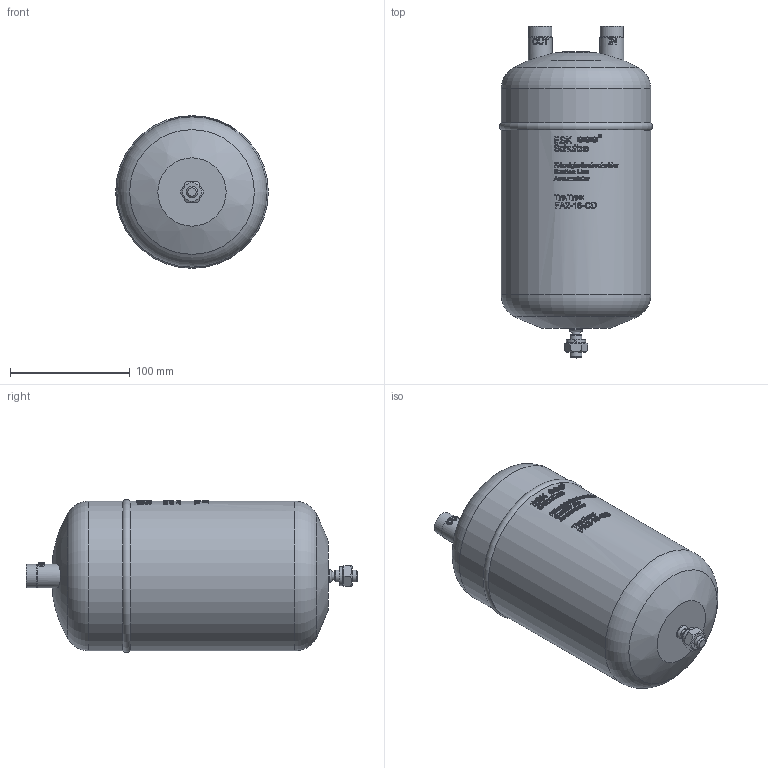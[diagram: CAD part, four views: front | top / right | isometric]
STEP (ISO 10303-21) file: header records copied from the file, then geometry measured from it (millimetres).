
FILE_DESCRIPTION(/* description */ (''),/* implementation_level */ '2;1');
FILE_NAME(/* name */ 'P:\FA\FA2-16-CD\FA2-16-CD.stp',/* time_stamp */ '2017-10-04T15:51:27+02:00',/* author */ ('neufeld'),/* organization */ (''),/* preprocessor_version */ 'ST-DEVELOPER v16.1',/* originating_system */ 'Autodesk Inventor 2016',/* authorisation */ '');
FILE_SCHEMA (('AUTOMOTIVE_DESIGN { 1 0 10303 214 3 1 1 }'));
Length unit declared in the file: millimetre
Products named in the file (2): FA2-16-CD; FA2-16-CD_1
Assembly tree (1 placements, depth 2):
  FA2-16-CD_1
    FA2-16-CD
Bounding box: 127.56 x 277.41 x 127.56 mm (x, y, z)
Volume: 2641315 mm3; surface area: 109598.8 mm2
Topology: 1 solids, 1 shells, 1348 faces, 3661 edges, 2438 vertices
Faces by surface type: plane 722, bspline 484, cylinder 129, cone 6, torus 4, sphere 3
Full cylindrical faces by diameter (mm): 7 x1, 10 x2, 11.5 x1, 16.2 x2, 19.4 x2, 20 x2, 34.17 x1, 82.2 x1, 125 x2
Entity records: 52399 total; most frequent: CARTESIAN_POINT 20904, ORIENTED_EDGE 7258, DIRECTION 5322, EDGE_CURVE 3629, VERTEX_POINT 2430, AXIS2_PLACEMENT_3D 1807, LINE 1708, VECTOR 1708
